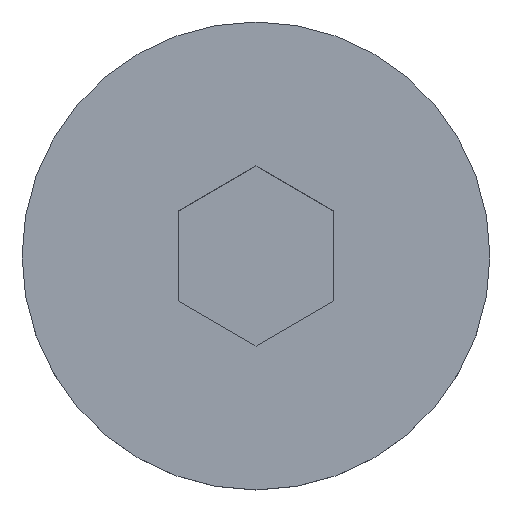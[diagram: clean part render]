
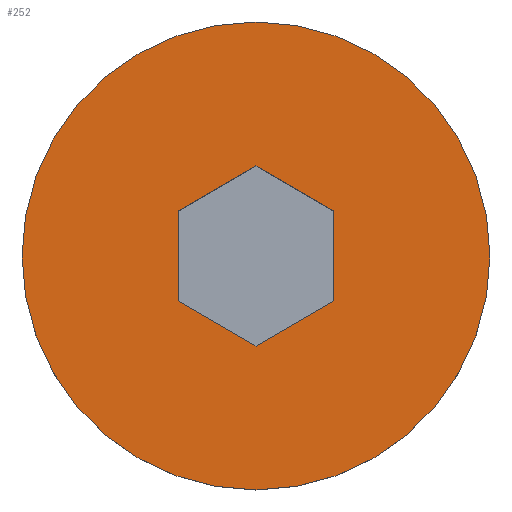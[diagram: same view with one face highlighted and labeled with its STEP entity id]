
A CAD part, top view. The second image highlights one B-rep face of the part: STEP entity #252.
In plain terms, the highlighted planar face has unit normal (0, 0, 1).
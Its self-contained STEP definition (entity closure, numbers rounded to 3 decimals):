
#1 = CARTESIAN_POINT ( 'NONE',  ( 0., 0., 1.5 ) ) ;
#2 = VERTEX_POINT ( 'NONE', #44 ) ;
#4 = EDGE_LOOP ( 'NONE', ( #323, #246, #370, #141, #28, #199 ) ) ;
#13 = LINE ( 'NONE', #170, #343 ) ;
#14 = VECTOR ( 'NONE', #81, 1000. ) ;
#15 = DIRECTION ( 'NONE',  ( 1., 0., 0. ) ) ;
#19 = CIRCLE ( 'NONE', #374, 7.5 ) ;
#28 = ORIENTED_EDGE ( 'NONE', *, *, #236, .F. ) ;
#29 = DIRECTION ( 'NONE',  ( 1., 0., 0. ) ) ;
#38 = PLANE ( 'NONE',  #284 ) ;
#39 = DIRECTION ( 'NONE',  ( 0., 0., 1. ) ) ;
#44 = CARTESIAN_POINT ( 'NONE',  ( 2.5, 1.443, 1.5 ) ) ;
#55 = VERTEX_POINT ( 'NONE', #80 ) ;
#63 = DIRECTION ( 'NONE',  ( 1., 0., 0. ) ) ;
#71 = EDGE_CURVE ( 'NONE', #2, #55, #363, .T. ) ;
#74 = EDGE_CURVE ( 'NONE', #55, #108, #258, .T. ) ;
#76 = FACE_BOUND ( 'NONE', #4, .T. ) ;
#80 = CARTESIAN_POINT ( 'NONE',  ( 0., 2.887, 1.5 ) ) ;
#81 = DIRECTION ( 'NONE',  ( -0.866, -0.5, 0. ) ) ;
#108 = VERTEX_POINT ( 'NONE', #218 ) ;
#112 = VECTOR ( 'NONE', #428, 1000. ) ;
#117 = VERTEX_POINT ( 'NONE', #424 ) ;
#121 = EDGE_CURVE ( 'NONE', #117, #181, #345, .T. ) ;
#122 = LINE ( 'NONE', #270, #112 ) ;
#126 = CARTESIAN_POINT ( 'NONE',  ( 0., 0., 1.5 ) ) ;
#141 = ORIENTED_EDGE ( 'NONE', *, *, #247, .F. ) ;
#145 = EDGE_CURVE ( 'NONE', #181, #117, #19, .T. ) ;
#156 = CARTESIAN_POINT ( 'NONE',  ( -2.5, -1.443, 1.5 ) ) ;
#158 = AXIS2_PLACEMENT_3D ( 'NONE', #1, #164, #29 ) ;
#164 = DIRECTION ( 'NONE',  ( 0., 0., 1. ) ) ;
#170 = CARTESIAN_POINT ( 'NONE',  ( -2.5, -1.443, 1.5 ) ) ;
#174 = CARTESIAN_POINT ( 'NONE',  ( 0., -2.887, 1.5 ) ) ;
#175 = EDGE_CURVE ( 'NONE', #255, #2, #122, .T. ) ;
#181 = VERTEX_POINT ( 'NONE', #297 ) ;
#192 = DIRECTION ( 'NONE',  ( 0., 0., 1. ) ) ;
#199 = ORIENTED_EDGE ( 'NONE', *, *, #74, .F. ) ;
#201 = CARTESIAN_POINT ( 'NONE',  ( -2.5, 1.443, 1.5 ) ) ;
#210 = EDGE_LOOP ( 'NONE', ( #355, #421 ) ) ;
#211 = CARTESIAN_POINT ( 'NONE',  ( 0., 0., 1.5 ) ) ;
#218 = CARTESIAN_POINT ( 'NONE',  ( -2.5, 1.443, 1.5 ) ) ;
#236 = EDGE_CURVE ( 'NONE', #108, #382, #240, .T. ) ;
#240 = LINE ( 'NONE', #201, #367 ) ;
#246 = ORIENTED_EDGE ( 'NONE', *, *, #175, .F. ) ;
#247 = EDGE_CURVE ( 'NONE', #382, #280, #13, .T. ) ;
#248 = CARTESIAN_POINT ( 'NONE',  ( 2.5, -1.443, 1.5 ) ) ;
#252 = ADVANCED_FACE ( 'NONE', ( #76, #257 ), #38, .T. ) ;
#255 = VERTEX_POINT ( 'NONE', #248 ) ;
#257 = FACE_OUTER_BOUND ( 'NONE', #210, .T. ) ;
#258 = LINE ( 'NONE', #261, #14 ) ;
#260 = CARTESIAN_POINT ( 'NONE',  ( 2.5, 1.443, 1.5 ) ) ;
#261 = CARTESIAN_POINT ( 'NONE',  ( 0., 2.887, 1.5 ) ) ;
#266 = VECTOR ( 'NONE', #311, 1000. ) ;
#270 = CARTESIAN_POINT ( 'NONE',  ( 2.5, -1.443, 1.5 ) ) ;
#280 = VERTEX_POINT ( 'NONE', #174 ) ;
#284 = AXIS2_PLACEMENT_3D ( 'NONE', #211, #39, #15 ) ;
#297 = CARTESIAN_POINT ( 'NONE',  ( -7.5, 0., 1.5 ) ) ;
#308 = EDGE_CURVE ( 'NONE', #280, #255, #350, .T. ) ;
#311 = DIRECTION ( 'NONE',  ( 0.866, 0.5, 0. ) ) ;
#314 = CARTESIAN_POINT ( 'NONE',  ( 0., -2.887, 1.5 ) ) ;
#323 = ORIENTED_EDGE ( 'NONE', *, *, #71, .F. ) ;
#327 = VECTOR ( 'NONE', #358, 1000. ) ;
#343 = VECTOR ( 'NONE', #349, 1000. ) ;
#345 = CIRCLE ( 'NONE', #158, 7.5 ) ;
#349 = DIRECTION ( 'NONE',  ( 0.866, -0.5, 0. ) ) ;
#350 = LINE ( 'NONE', #314, #266 ) ;
#355 = ORIENTED_EDGE ( 'NONE', *, *, #145, .T. ) ;
#358 = DIRECTION ( 'NONE',  ( -0.866, 0.5, 0. ) ) ;
#363 = LINE ( 'NONE', #260, #327 ) ;
#367 = VECTOR ( 'NONE', #368, 1000. ) ;
#368 = DIRECTION ( 'NONE',  ( 0., -1., 0. ) ) ;
#370 = ORIENTED_EDGE ( 'NONE', *, *, #308, .F. ) ;
#374 = AXIS2_PLACEMENT_3D ( 'NONE', #126, #192, #63 ) ;
#382 = VERTEX_POINT ( 'NONE', #156 ) ;
#421 = ORIENTED_EDGE ( 'NONE', *, *, #121, .T. ) ;
#424 = CARTESIAN_POINT ( 'NONE',  ( 7.5, 0., 1.5 ) ) ;
#428 = DIRECTION ( 'NONE',  ( 0., 1., 0. ) ) ;
